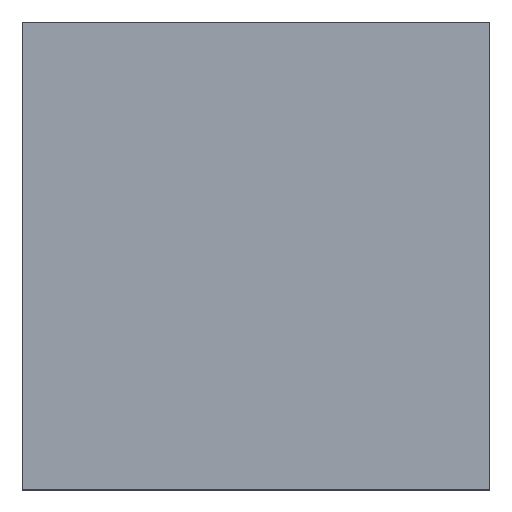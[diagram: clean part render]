
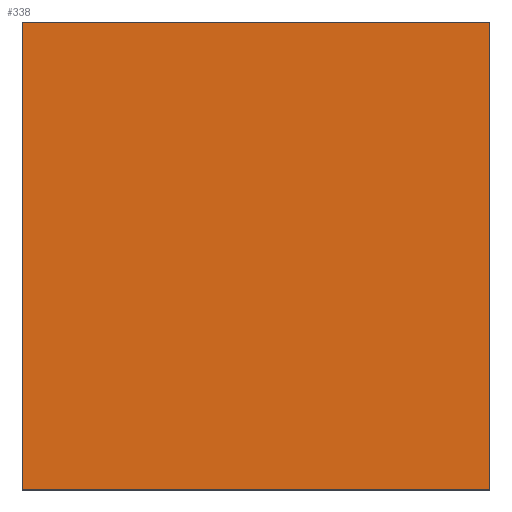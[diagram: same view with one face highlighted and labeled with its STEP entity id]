
A CAD part, top view. The second image highlights one B-rep face of the part: STEP entity #338.
In plain terms, the highlighted planar face has unit normal (0, 0, 1).
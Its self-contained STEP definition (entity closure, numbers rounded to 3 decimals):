
#24 = VERTEX_POINT('',#25);
#25 = CARTESIAN_POINT('',(-1997.,1651.,25.));
#32 = PLANE('',#33);
#33 = AXIS2_PLACEMENT_3D('',#34,#35,#36);
#34 = CARTESIAN_POINT('',(-1997.,1651.,0.));
#35 = DIRECTION('',(1.,0.,-0.));
#36 = DIRECTION('',(0.,0.,1.));
#44 = PLANE('',#45);
#45 = AXIS2_PLACEMENT_3D('',#46,#47,#48);
#46 = CARTESIAN_POINT('',(-1997.,1651.,0.));
#47 = DIRECTION('',(-0.,1.,0.));
#48 = DIRECTION('',(0.,0.,1.));
#85 = VERTEX_POINT('',#86);
#86 = CARTESIAN_POINT('',(-1997.,2001.,25.));
#100 = PLANE('',#101);
#101 = AXIS2_PLACEMENT_3D('',#102,#103,#104);
#102 = CARTESIAN_POINT('',(-1997.,2001.,0.));
#103 = DIRECTION('',(-0.,1.,0.));
#104 = DIRECTION('',(0.,0.,1.));
#112 = EDGE_CURVE('',#24,#85,#113,.T.);
#113 = SURFACE_CURVE('',#114,(#118,#125),.PCURVE_S1.);
#114 = LINE('',#115,#116);
#115 = CARTESIAN_POINT('',(-1997.,1651.,25.));
#116 = VECTOR('',#117,1.);
#117 = DIRECTION('',(-0.,1.,0.));
#118 = PCURVE('',#32,#119);
#119 = DEFINITIONAL_REPRESENTATION('',(#120),#124);
#120 = LINE('',#121,#122);
#121 = CARTESIAN_POINT('',(25.,0.));
#122 = VECTOR('',#123,1.);
#123 = DIRECTION('',(0.,-1.));
#124 = ( GEOMETRIC_REPRESENTATION_CONTEXT(2) 
PARAMETRIC_REPRESENTATION_CONTEXT() REPRESENTATION_CONTEXT('2D SPACE',''
  ) );
#125 = PCURVE('',#126,#131);
#126 = PLANE('',#127);
#127 = AXIS2_PLACEMENT_3D('',#128,#129,#130);
#128 = CARTESIAN_POINT('',(-1997.,1651.,25.));
#129 = DIRECTION('',(0.,0.,1.));
#130 = DIRECTION('',(1.,0.,-0.));
#131 = DEFINITIONAL_REPRESENTATION('',(#132),#136);
#132 = LINE('',#133,#134);
#133 = CARTESIAN_POINT('',(0.,0.));
#134 = VECTOR('',#135,1.);
#135 = DIRECTION('',(0.,1.));
#136 = ( GEOMETRIC_REPRESENTATION_CONTEXT(2) 
PARAMETRIC_REPRESENTATION_CONTEXT() REPRESENTATION_CONTEXT('2D SPACE',''
  ) );
#144 = VERTEX_POINT('',#145);
#145 = CARTESIAN_POINT('',(-1647.,1651.,25.));
#152 = PLANE('',#153);
#153 = AXIS2_PLACEMENT_3D('',#154,#155,#156);
#154 = CARTESIAN_POINT('',(-1647.,1651.,0.));
#155 = DIRECTION('',(1.,0.,-0.));
#156 = DIRECTION('',(0.,0.,1.));
#195 = VERTEX_POINT('',#196);
#196 = CARTESIAN_POINT('',(-1647.,2001.,25.));
#217 = EDGE_CURVE('',#144,#195,#218,.T.);
#218 = SURFACE_CURVE('',#219,(#223,#230),.PCURVE_S1.);
#219 = LINE('',#220,#221);
#220 = CARTESIAN_POINT('',(-1647.,1651.,25.));
#221 = VECTOR('',#222,1.);
#222 = DIRECTION('',(-0.,1.,0.));
#223 = PCURVE('',#152,#224);
#224 = DEFINITIONAL_REPRESENTATION('',(#225),#229);
#225 = LINE('',#226,#227);
#226 = CARTESIAN_POINT('',(25.,0.));
#227 = VECTOR('',#228,1.);
#228 = DIRECTION('',(0.,-1.));
#229 = ( GEOMETRIC_REPRESENTATION_CONTEXT(2) 
PARAMETRIC_REPRESENTATION_CONTEXT() REPRESENTATION_CONTEXT('2D SPACE',''
  ) );
#230 = PCURVE('',#126,#231);
#231 = DEFINITIONAL_REPRESENTATION('',(#232),#236);
#232 = LINE('',#233,#234);
#233 = CARTESIAN_POINT('',(350.,0.));
#234 = VECTOR('',#235,1.);
#235 = DIRECTION('',(0.,1.));
#236 = ( GEOMETRIC_REPRESENTATION_CONTEXT(2) 
PARAMETRIC_REPRESENTATION_CONTEXT() REPRESENTATION_CONTEXT('2D SPACE',''
  ) );
#263 = EDGE_CURVE('',#24,#144,#264,.T.);
#264 = SURFACE_CURVE('',#265,(#269,#276),.PCURVE_S1.);
#265 = LINE('',#266,#267);
#266 = CARTESIAN_POINT('',(-1997.,1651.,25.));
#267 = VECTOR('',#268,1.);
#268 = DIRECTION('',(1.,0.,-0.));
#269 = PCURVE('',#44,#270);
#270 = DEFINITIONAL_REPRESENTATION('',(#271),#275);
#271 = LINE('',#272,#273);
#272 = CARTESIAN_POINT('',(25.,0.));
#273 = VECTOR('',#274,1.);
#274 = DIRECTION('',(0.,1.));
#275 = ( GEOMETRIC_REPRESENTATION_CONTEXT(2) 
PARAMETRIC_REPRESENTATION_CONTEXT() REPRESENTATION_CONTEXT('2D SPACE',''
  ) );
#276 = PCURVE('',#126,#277);
#277 = DEFINITIONAL_REPRESENTATION('',(#278),#282);
#278 = LINE('',#279,#280);
#279 = CARTESIAN_POINT('',(0.,0.));
#280 = VECTOR('',#281,1.);
#281 = DIRECTION('',(1.,0.));
#282 = ( GEOMETRIC_REPRESENTATION_CONTEXT(2) 
PARAMETRIC_REPRESENTATION_CONTEXT() REPRESENTATION_CONTEXT('2D SPACE',''
  ) );
#310 = EDGE_CURVE('',#85,#195,#311,.T.);
#311 = SURFACE_CURVE('',#312,(#316,#323),.PCURVE_S1.);
#312 = LINE('',#313,#314);
#313 = CARTESIAN_POINT('',(-1997.,2001.,25.));
#314 = VECTOR('',#315,1.);
#315 = DIRECTION('',(1.,0.,-0.));
#316 = PCURVE('',#100,#317);
#317 = DEFINITIONAL_REPRESENTATION('',(#318),#322);
#318 = LINE('',#319,#320);
#319 = CARTESIAN_POINT('',(25.,0.));
#320 = VECTOR('',#321,1.);
#321 = DIRECTION('',(0.,1.));
#322 = ( GEOMETRIC_REPRESENTATION_CONTEXT(2) 
PARAMETRIC_REPRESENTATION_CONTEXT() REPRESENTATION_CONTEXT('2D SPACE',''
  ) );
#323 = PCURVE('',#126,#324);
#324 = DEFINITIONAL_REPRESENTATION('',(#325),#329);
#325 = LINE('',#326,#327);
#326 = CARTESIAN_POINT('',(0.,350.));
#327 = VECTOR('',#328,1.);
#328 = DIRECTION('',(1.,0.));
#329 = ( GEOMETRIC_REPRESENTATION_CONTEXT(2) 
PARAMETRIC_REPRESENTATION_CONTEXT() REPRESENTATION_CONTEXT('2D SPACE',''
  ) );
#338 = ADVANCED_FACE('',(#339),#126,.T.);
#339 = FACE_BOUND('',#340,.T.);
#340 = EDGE_LOOP('',(#341,#342,#343,#344));
#341 = ORIENTED_EDGE('',*,*,#112,.F.);
#342 = ORIENTED_EDGE('',*,*,#263,.T.);
#343 = ORIENTED_EDGE('',*,*,#217,.T.);
#344 = ORIENTED_EDGE('',*,*,#310,.F.);
